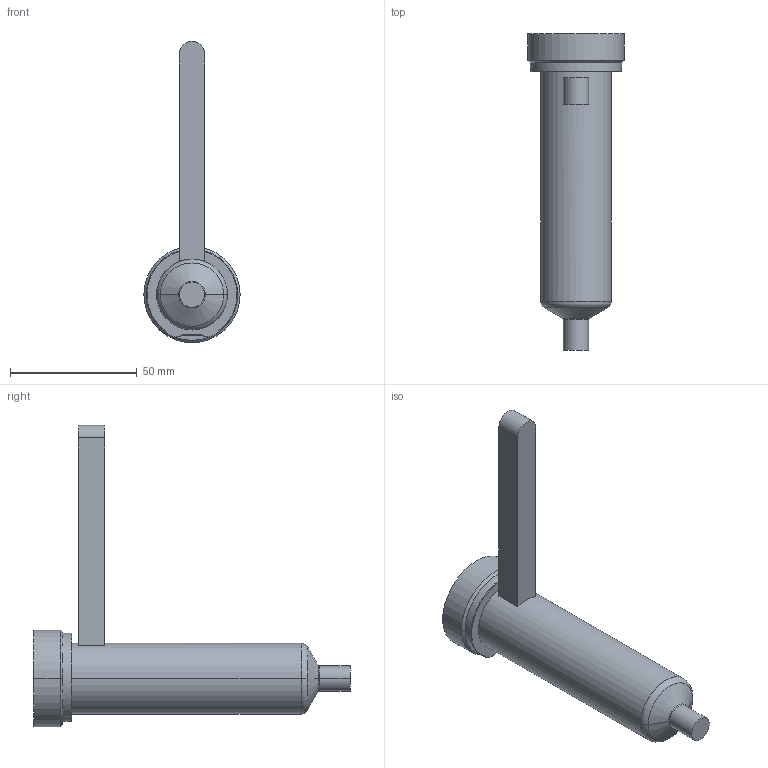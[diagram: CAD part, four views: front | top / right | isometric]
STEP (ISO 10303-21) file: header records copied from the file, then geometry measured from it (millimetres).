
FILE_DESCRIPTION((''),'2;1');
FILE_NAME('EO06_SG_ESG_100_COT','2024-02-19T12:18:43',('sundharh'),(''),'CREO PARAMETRIC BY PTC INC, 2023154','CREO PARAMETRIC BY PTC INC, 2023154','');
FILE_SCHEMA(('CONFIG_CONTROL_DESIGN'));
Length unit declared in the file: millimetre
Products named in the file (1): EO06_SG_ESG_100_COT
Bounding box: 38 x 125 x 119 mm (x, y, z)
Volume: 84810.4 mm3; surface area: 16005.7 mm2
Topology: 1 solids, 1 shells, 31 faces, 67 edges, 40 vertices
Faces by surface type: cylinder 11, plane 9, torus 7, cone 4
Entity records: 963 total; most frequent: CARTESIAN_POINT 230, DIRECTION 159, ORIENTED_EDGE 134, AXIS2_PLACEMENT_3D 67, EDGE_CURVE 67, VERTEX_POINT 40, CIRCLE 36, EDGE_LOOP 33
